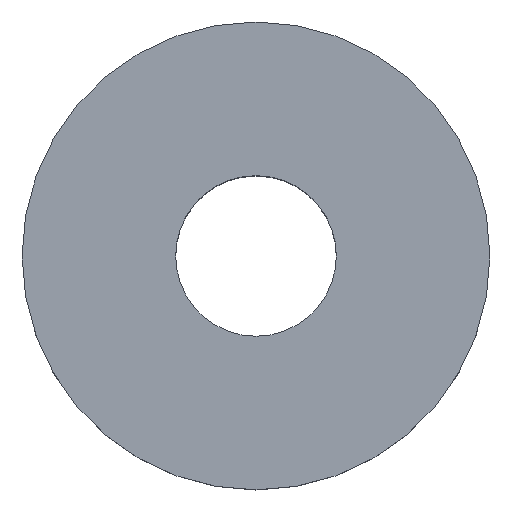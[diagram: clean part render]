
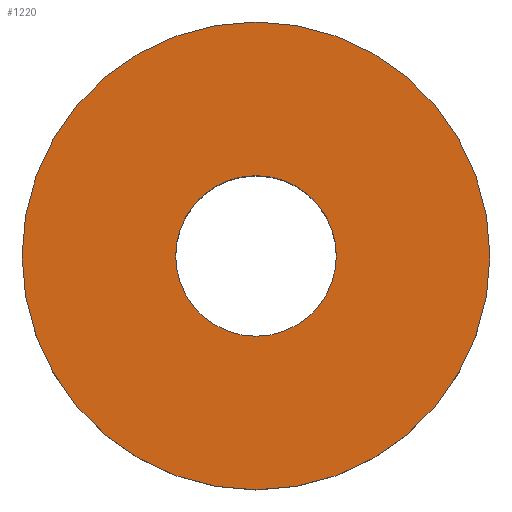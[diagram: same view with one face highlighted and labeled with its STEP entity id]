
A CAD part, top view. The second image highlights one B-rep face of the part: STEP entity #1220.
In plain terms, the highlighted planar face has unit normal (0, 0, 1).
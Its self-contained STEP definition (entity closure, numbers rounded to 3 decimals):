
#48=AXIS2_PLACEMENT_3D('Circle Axis2P3D',#46,#47,$) ;
#74=AXIS2_PLACEMENT_3D('Circle Axis2P3D',#72,#73,$) ;
#1173=AXIS2_PLACEMENT_3D('Circle Axis2P3D',#1171,#1172,$) ;
#1197=AXIS2_PLACEMENT_3D('Circle Axis2P3D',#1195,#1196,$) ;
#1210=AXIS2_PLACEMENT_3D('Plane Axis2P3D',#1207,#1208,#1209) ;
#41=CARTESIAN_POINT('Vertex',(2.3,0.,16.7)) ;
#46=CARTESIAN_POINT('Axis2P3D Location',(0.,0.,16.7)) ;
#50=CARTESIAN_POINT('Vertex',(-2.3,0.,16.7)) ;
#72=CARTESIAN_POINT('Axis2P3D Location',(0.,0.,16.7)) ;
#1168=CARTESIAN_POINT('Vertex',(-6.7,0.,16.7)) ;
#1171=CARTESIAN_POINT('Axis2P3D Location',(0.,0.,16.7)) ;
#1175=CARTESIAN_POINT('Vertex',(6.7,0.,16.7)) ;
#1195=CARTESIAN_POINT('Axis2P3D Location',(0.,0.,16.7)) ;
#1207=CARTESIAN_POINT('Axis2P3D Location',(0.,0.,16.7)) ;
#47=DIRECTION('Axis2P3D Direction',(0.,0.,1.)) ;
#73=DIRECTION('Axis2P3D Direction',(0.,0.,1.)) ;
#1172=DIRECTION('Axis2P3D Direction',(0.,0.,1.)) ;
#1196=DIRECTION('Axis2P3D Direction',(0.,0.,1.)) ;
#1208=DIRECTION('Axis2P3D Direction',(0.,0.,1.)) ;
#1209=DIRECTION('Axis2P3D XDirection',(1.,0.,0.)) ;
#1213=ORIENTED_EDGE('',*,*,#1199,.T.) ;
#1214=ORIENTED_EDGE('',*,*,#1177,.T.) ;
#1217=ORIENTED_EDGE('',*,*,#52,.F.) ;
#1218=ORIENTED_EDGE('',*,*,#76,.F.) ;
#1219=FACE_BOUND('',#1216,.T.) ;
#1220=ADVANCED_FACE('\X2\96F64EF651E04F554F53\X0\',(#1215,#1219),#1211,.T.) ;
#49=CIRCLE('generated circle',#48,2.3) ;
#75=CIRCLE('generated circle',#74,2.3) ;
#1174=CIRCLE('generated circle',#1173,6.7) ;
#1198=CIRCLE('generated circle',#1197,6.7) ;
#52=EDGE_CURVE('',#42,#51,#49,.T.) ;
#76=EDGE_CURVE('',#51,#42,#75,.T.) ;
#1177=EDGE_CURVE('',#1176,#1169,#1174,.T.) ;
#1199=EDGE_CURVE('',#1169,#1176,#1198,.T.) ;
#1212=EDGE_LOOP('',(#1213,#1214)) ;
#1216=EDGE_LOOP('',(#1217,#1218)) ;
#1215=FACE_OUTER_BOUND('',#1212,.T.) ;
#1211=PLANE('',#1210) ;
#42=VERTEX_POINT('',#41) ;
#51=VERTEX_POINT('',#50) ;
#1169=VERTEX_POINT('',#1168) ;
#1176=VERTEX_POINT('',#1175) ;
